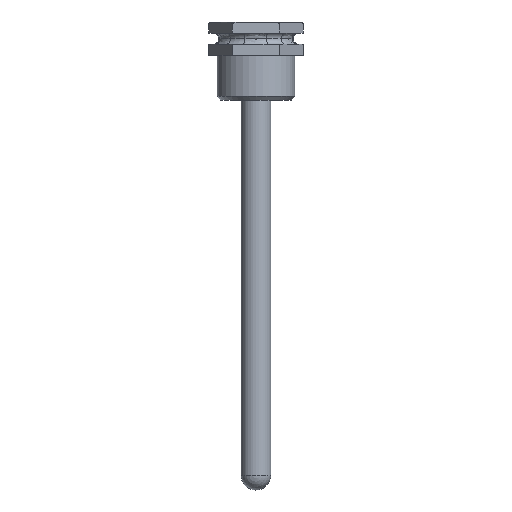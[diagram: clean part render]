
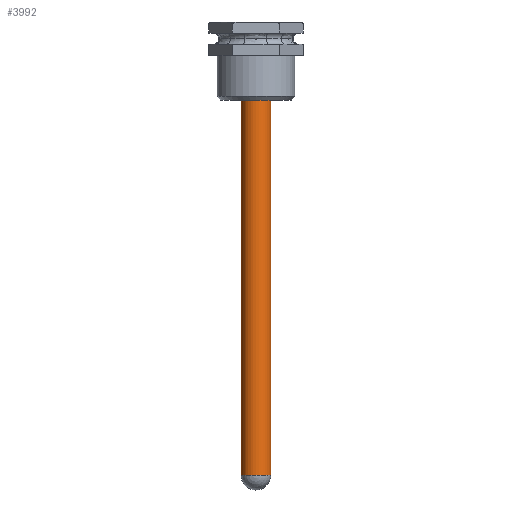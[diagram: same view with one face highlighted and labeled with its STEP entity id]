
A CAD part, front view. The second image highlights one B-rep face of the part: STEP entity #3992.
In plain terms, the highlighted cylindrical face has radius 4 mm (diameter 8 mm), a partial arc.
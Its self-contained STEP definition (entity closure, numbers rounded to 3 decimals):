
#87 = CIRCLE ( 'NONE', #6105, 4. ) ;
#562 = CYLINDRICAL_SURFACE ( 'NONE', #798, 4. ) ;
#670 = CARTESIAN_POINT ( 'NONE',  ( 4., 0., 4. ) ) ;
#798 = AXIS2_PLACEMENT_3D ( 'NONE', #3967, #4995, #4518 ) ;
#851 = VERTEX_POINT ( 'NONE', #974 ) ;
#974 = CARTESIAN_POINT ( 'NONE',  ( -4., 0., 4. ) ) ;
#1042 = CIRCLE ( 'NONE', #1170, 4. ) ;
#1163 = ORIENTED_EDGE ( 'NONE', *, *, #4881, .T. ) ;
#1170 = AXIS2_PLACEMENT_3D ( 'NONE', #5135, #7221, #3882 ) ;
#1595 = CARTESIAN_POINT ( 'NONE',  ( 0., 0., 105. ) ) ;
#1747 = EDGE_LOOP ( 'NONE', ( #7099, #6377, #3860, #1163 ) ) ;
#2116 = VECTOR ( 'NONE', #2627, 1000. ) ;
#2237 = VERTEX_POINT ( 'NONE', #670 ) ;
#2267 = EDGE_CURVE ( 'NONE', #5656, #2237, #6885, .T. ) ;
#2499 = CARTESIAN_POINT ( 'NONE',  ( -4., 0., 105. ) ) ;
#2627 = DIRECTION ( 'NONE',  ( 0., 0., -1. ) ) ;
#3063 = DIRECTION ( 'NONE',  ( 0., 0., -1. ) ) ;
#3860 = ORIENTED_EDGE ( 'NONE', *, *, #6739, .T. ) ;
#3863 = DIRECTION ( 'NONE',  ( 0., 0., 1. ) ) ;
#3882 = DIRECTION ( 'NONE',  ( -1., 0., 0. ) ) ;
#3967 = CARTESIAN_POINT ( 'NONE',  ( 0., 0., 117. ) ) ;
#3992 = ADVANCED_FACE ( 'NONE', ( #5490 ), #562, .T. ) ;
#4492 = CARTESIAN_POINT ( 'NONE',  ( 4., 0., 105. ) ) ;
#4518 = DIRECTION ( 'NONE',  ( -1., 0., 0. ) ) ;
#4634 = EDGE_CURVE ( 'NONE', #6733, #5656, #87, .T. ) ;
#4881 = EDGE_CURVE ( 'NONE', #851, #2237, #1042, .T. ) ;
#4995 = DIRECTION ( 'NONE',  ( 0., 0., -1. ) ) ;
#5135 = CARTESIAN_POINT ( 'NONE',  ( 0., 0., 4. ) ) ;
#5332 = LINE ( 'NONE', #6395, #5448 ) ;
#5448 = VECTOR ( 'NONE', #3063, 1000. ) ;
#5490 = FACE_OUTER_BOUND ( 'NONE', #1747, .T. ) ;
#5656 = VERTEX_POINT ( 'NONE', #4492 ) ;
#6086 = DIRECTION ( 'NONE',  ( 1., 0., 0. ) ) ;
#6105 = AXIS2_PLACEMENT_3D ( 'NONE', #1595, #3863, #6086 ) ;
#6377 = ORIENTED_EDGE ( 'NONE', *, *, #4634, .F. ) ;
#6384 = CARTESIAN_POINT ( 'NONE',  ( 4., 0., 117. ) ) ;
#6395 = CARTESIAN_POINT ( 'NONE',  ( -4., 0., 117. ) ) ;
#6733 = VERTEX_POINT ( 'NONE', #2499 ) ;
#6739 = EDGE_CURVE ( 'NONE', #6733, #851, #5332, .T. ) ;
#6885 = LINE ( 'NONE', #6384, #2116 ) ;
#7099 = ORIENTED_EDGE ( 'NONE', *, *, #2267, .F. ) ;
#7221 = DIRECTION ( 'NONE',  ( 0., 0., 1. ) ) ;
